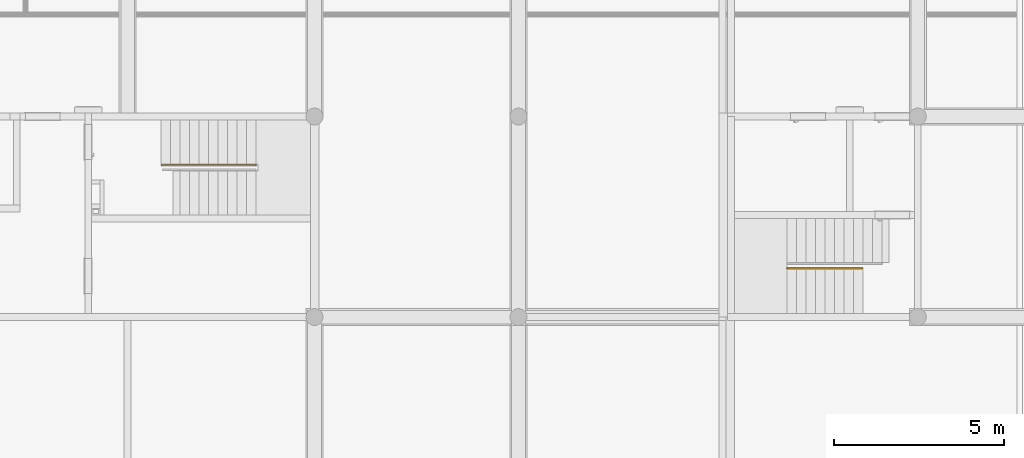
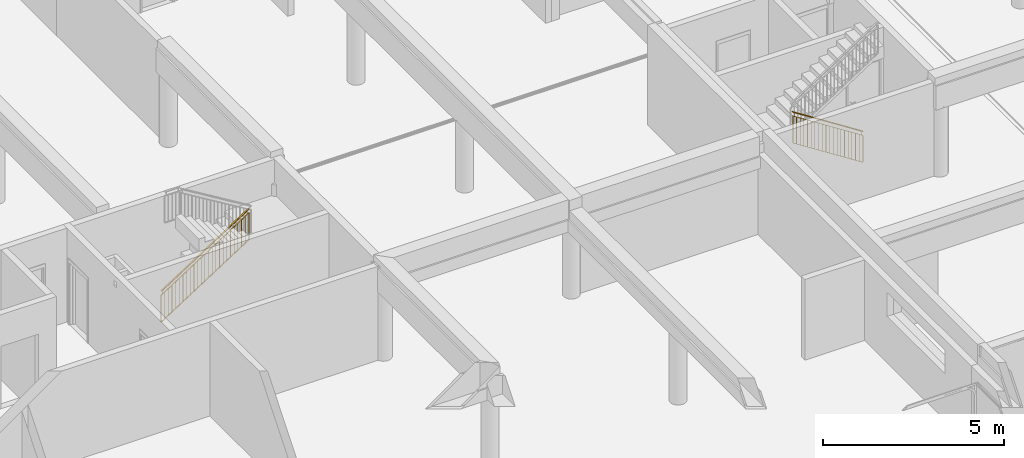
# One storey, part 15 of 25: 2 railings.
"""IFC2X3 building model written with IfcOpenShell, lengths in millimetres."""

from ifc_helpers import new_model, entity, si_unit, converted_unit, derived_unit, money_unit, direction, frame, origin_with_axes, place, context, subcontext, project, spatial, faceted_brep, material, material_list, type_object, element, save


model = new_model("IFC2X3")

# Units and contexts
model_context = context("Model", 3, precision=0.01, world=origin_with_axes(), true_north=direction((0.34421633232, 0.938890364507)))
body_context = subcontext(model_context, "Body", "Model", "MODEL_VIEW")
ifc_project = project(units=[si_unit("LENGTHUNIT", "METRE", prefix="MILLI"), si_unit("AREAUNIT", "SQUARE_METRE"), si_unit("VOLUMEUNIT", "CUBIC_METRE"), converted_unit("PLANEANGLEUNIT", "DEGREE", entity("IfcPlaneAngleMeasure", 0.0174532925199), si_unit("PLANEANGLEUNIT", "RADIAN"), dimensions=[0, 0, 0, 0, 0, 0, 0]), si_unit("SOLIDANGLEUNIT", "STERADIAN"), money_unit("USD"), converted_unit("TIMEUNIT", "Year", entity("IfcTimeMeasure", 31556926.0), si_unit("TIMEUNIT", "SECOND"), dimensions=[0, 0, 1, 0, 0, 0, 0]), si_unit("MASSUNIT", "GRAM", prefix="KILO"), si_unit("THERMODYNAMICTEMPERATUREUNIT", "DEGREE_CELSIUS"), si_unit("LUMINOUSINTENSITYUNIT", "LUMEN"), si_unit("ENERGYUNIT", "JOULE", prefix="MEGA"), derived_unit("THERMALCONDUCTANCEUNIT", [(si_unit("POWERUNIT", "WATT"), 1), (si_unit("LENGTHUNIT", "METRE"), -1), (si_unit("THERMODYNAMICTEMPERATUREUNIT", "KELVIN"), -1)]), derived_unit("SPECIFICHEATCAPACITYUNIT", [(si_unit("ENERGYUNIT", "JOULE"), 1), (si_unit("MASSUNIT", "GRAM", prefix="KILO"), -1), (si_unit("THERMODYNAMICTEMPERATUREUNIT", "KELVIN"), -1)]), derived_unit("MASSDENSITYUNIT", [(si_unit("MASSUNIT", "GRAM", prefix="KILO"), 1), (si_unit("VOLUMEUNIT", "CUBIC_METRE"), -1)])], contexts=[model_context])

# Site, building, storey
site_placement = place(None, origin_with_axes())
site = spatial("IfcSite", under=ifc_project, at=site_placement, Name="USTRONIE MORSKIE", CompositionType="ELEMENT")
building_placement = place(site_placement, origin_with_axes())
building = spatial("IfcBuilding", under=site, at=building_placement, Name="Budynek", CompositionType="ELEMENT")
storey_placement = place(building_placement, frame((0.0, 0.0, -3600.0), z_axis=(0.0, 0.0, 1.0), x_axis=(1.0, 0.0, 0.0)))
storey = spatial("IfcBuildingStorey", under=building, at=storey_placement, Name="GARAZ", CompositionType="ELEMENT", Elevation=-3600.0)

# Railings
ifc_material_1 = material(Name="Stal konstrukcyjna")
ifc_material_2 = material(Name="Stal nierdzewna")
ifc_material_list_1 = material_list([ifc_material_1, ifc_material_1, ifc_material_2, ifc_material_2, ifc_material_2, ifc_material_1, ifc_material_1, ifc_material_1, ifc_material_1, ifc_material_1, ifc_material_1, ifc_material_1, ifc_material_1, ifc_material_1, ifc_material_1, ifc_material_1, ifc_material_1, ifc_material_1, ifc_material_1, ifc_material_1, ifc_material_1, ifc_material_1, ifc_material_1, ifc_material_1, ifc_material_1, ifc_material_1, ifc_material_1, ifc_material_1])
railing_type = type_object("IfcRailingType", Name="Typ balustrady", PredefinedType="NOTDEFINED")
railing_1_placement = place(storey_placement, frame((391797.920919, 731401.199036, 180.0), z_axis=(0.0, 0.0, 1.0), x_axis=(1.0, 0.0, 0.0)))
element("IfcRailing", 1, at=railing_1_placement, inside=storey, type_object=railing_type, material=ifc_material_list_1, Name="BL1", PredefinedType="NOTDEFINED", context=body_context, shape_type="Brep", body=[
    faceted_brep([(9.99999999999, -45.0, -143.571428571), (9.99999999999, -25.0, -143.571428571), (9.99999999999, -25.0, 756.428571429), (9.99999999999, -45.0, 756.428571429), (-9.99999999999, -45.0, -156.428571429), (-9.99999999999, -25.0, -156.428571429), (5.0, -40.0, -146.785714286), (5.0, -30.0, -146.785714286), (-5.0, -30.0, -153.214285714), (-5.0, -40.0, -153.214285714), (-9.99999999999, -25.0, 743.571428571), (-9.99999999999, -45.0, 743.571428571), (5.0, -40.0, 753.214285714), (-5.0, -40.0, 746.785714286), (-5.0, -30.0, 746.785714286), (5.0, -30.0, 753.214285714)], [[[0, 1, 2, 3]], [[0, 4, 5, 1], [6, 7, 8, 9]], [[1, 5, 10, 2]], [[3, 2, 10, 11], [12, 13, 14, 15]], [[4, 0, 3, 11]], [[5, 4, 11, 10]], [[7, 6, 12, 15]], [[8, 7, 15, 14]], [[9, 8, 14, 13]], [[6, 9, 13, 12]]]),
    faceted_brep([(2810.0, -45.0, 1656.42857143), (2810.0, -25.0, 1656.42857143), (2810.0, -25.0, 2556.42857143), (2810.0, -45.0, 2556.42857143), (2790.0, -45.0, 1643.57142857), (2790.0, -25.0, 1643.57142857), (2805.0, -40.0, 1653.21428571), (2805.0, -30.0, 1653.21428571), (2795.0, -30.0, 1646.78571429), (2795.0, -40.0, 1646.78571429), (2790.0, -25.0, 2543.57142857), (2790.0, -45.0, 2543.57142857), (2805.0, -40.0, 2553.21428571), (2795.0, -40.0, 2546.78571429), (2795.0, -30.0, 2546.78571429), (2805.0, -30.0, 2553.21428571)], [[[0, 1, 2, 3]], [[0, 4, 5, 1], [6, 7, 8, 9]], [[1, 5, 10, 2]], [[3, 2, 10, 11], [12, 13, 14, 15]], [[4, 0, 3, 11]], [[5, 4, 11, 10]], [[7, 6, 12, 15]], [[8, 7, 15, 14]], [[9, 8, 14, 13]], [[6, 9, 13, 12]]]),
    faceted_brep([(0.0, -59.9999999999, 900.0), (13.5189397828, -59.9999999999, 878.970538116), (2813.51893978, -59.9999999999, 2678.97053812), (2800.0, -59.9999999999, 2700.0), (0.0, -9.99999999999, 900.0), (13.5189397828, -9.99999999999, 878.970538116), (13.5189397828, -25.0, 878.970538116), (10.8151518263, -25.0, 883.176430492), (10.8151518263, -45.0, 883.176430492), (13.5189397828, -45.0, 878.970538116), (2813.51893978, -45.0, 2678.97053812), (2810.81515183, -45.0, 2683.17643049), (2810.81515183, -25.0, 2683.17643049), (2813.51893978, -25.0, 2678.97053812), (2813.51893978, -9.99999999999, 2678.97053812), (2800.0, -9.99999999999, 2700.0)], [[[0, 1, 2, 3]], [[0, 4, 5, 6, 7, 8, 9, 1]], [[1, 9, 10, 2]], [[3, 2, 10, 11, 12, 13, 14, 15]], [[4, 0, 3, 15]], [[5, 4, 15, 14]], [[6, 5, 14, 13]], [[7, 6, 13, 12]], [[8, 7, 12, 11]], [[9, 8, 11, 10]]]),
    faceted_brep([(13.5189397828, -45.0, 878.970538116), (13.5189397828, -25.0, 878.970538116), (2813.51893978, -25.0, 2678.97053812), (2813.51893978, -45.0, 2678.97053812), (10.8151518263, -45.0, 883.176430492), (10.8151518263, -25.0, 883.176430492), (2810.81515183, -25.0, 2683.17643049), (2810.81515183, -45.0, 2683.17643049)], [[[0, 1, 2, 3]], [[0, 4, 5, 1]], [[1, 5, 6, 2]], [[3, 2, 6, 7]], [[4, 0, 3, 7]], [[5, 4, 7, 6]]]),
    faceted_brep([(44.5589237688, -45.0, 777.317670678), (44.5589237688, -25.0, 777.317670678), (44.5589237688, -25.0, 898.924813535), (44.5589237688, -45.0, 898.924813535), (39.5589237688, -45.0, 777.317670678), (39.5589237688, -25.0, 777.317670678), (39.5589237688, -25.0, 897.317670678), (42.0589237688, -25.0, 898.924813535), (42.0589237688, -45.0, 898.924813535), (39.5589237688, -45.0, 897.317670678)], [[[0, 1, 2, 3]], [[0, 4, 5, 1]], [[1, 5, 6, 7, 2]], [[3, 2, 7, 8]], [[4, 0, 3, 8, 9]], [[5, 4, 9, 6]], [[7, 6, 9, 8]]]),
    faceted_brep([(2760.44107623, -45.0, 2523.24191155), (2760.44107623, -25.0, 2523.24191155), (2760.44107623, -25.0, 2644.8490544), (2760.44107623, -45.0, 2644.8490544), (2755.44107623, -45.0, 2523.24191155), (2755.44107623, -25.0, 2523.24191155), (2755.44107623, -25.0, 2643.24191155), (2757.94107623, -25.0, 2644.8490544), (2757.94107623, -45.0, 2644.8490544), (2755.44107623, -45.0, 2643.24191155)], [[[0, 1, 2, 3]], [[0, 4, 5, 1]], [[1, 5, 6, 7, 2]], [[3, 2, 7, 8]], [[4, 0, 3, 8, 9]], [[5, 4, 9, 6]], [[7, 6, 9, 8]]]),
    faceted_brep([(0.0, -54.9999999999, 750.0), (2.70378795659, -54.9999999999, 745.794107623), (2802.70378796, -54.9999999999, 2545.79410762), (2800.0, -54.9999999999, 2550.0), (0.0, -15.0, 750.0), (2.70378795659, -15.0, 745.794107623), (2802.70378796, -15.0, 2545.79410762), (2800.0, -15.0, 2550.0)], [[[0, 1, 2, 3]], [[0, 4, 5, 1]], [[1, 5, 6, 2]], [[3, 2, 6, 7]], [[4, 0, 3, 7]], [[5, 4, 7, 6]]]),
    faceted_brep([(-1.35189397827, -54.9999999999, -157.897053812), (1.35189397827, -54.9999999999, -162.102946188), (2801.35189398, -54.9999999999, 1637.89705381), (2798.64810602, -54.9999999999, 1642.10294619), (-1.35189397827, -15.0, -157.897053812), (1.35189397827, -15.0, -162.102946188), (2801.35189398, -15.0, 1637.89705381), (2798.64810602, -15.0, 1642.10294619)], [[[0, 1, 2, 3]], [[0, 4, 5, 1]], [[1, 5, 6, 2]], [[3, 2, 6, 7]], [[4, 0, 3, 7]], [[5, 4, 7, 6]]]),
    faceted_brep([(119.166666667, -47.5, -78.3928571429), (119.166666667, -22.4999999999, -78.3928571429), (119.166666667, -22.4999999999, 821.607142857), (119.166666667, -47.5, 821.607142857), (114.166666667, -47.5, -81.6071428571), (114.166666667, -22.4999999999, -81.6071428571), (114.166666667, -22.4999999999, 818.392857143), (114.166666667, -47.5, 818.392857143)], [[[0, 1, 2, 3]], [[0, 4, 5, 1]], [[1, 5, 6, 2]], [[3, 2, 6, 7]], [[4, 0, 3, 7]], [[5, 4, 7, 6]]]),
    faceted_brep([(235.833333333, -47.5, -3.39285714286), (235.833333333, -22.4999999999, -3.39285714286), (235.833333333, -22.4999999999, 896.607142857), (235.833333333, -47.5, 896.607142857), (230.833333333, -47.5, -6.60714285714), (230.833333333, -22.4999999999, -6.60714285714), (230.833333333, -22.4999999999, 893.392857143), (230.833333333, -47.5, 893.392857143)], [[[0, 1, 2, 3]], [[0, 4, 5, 1]], [[1, 5, 6, 2]], [[3, 2, 6, 7]], [[4, 0, 3, 7]], [[5, 4, 7, 6]]]),
    faceted_brep([(352.5, -47.5, 71.6071428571), (352.5, -22.4999999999, 71.6071428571), (352.5, -22.4999999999, 971.607142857), (352.5, -47.5, 971.607142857), (347.5, -47.5, 68.3928571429), (347.5, -22.4999999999, 68.3928571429), (347.5, -22.4999999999, 968.392857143), (347.5, -47.5, 968.392857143)], [[[0, 1, 2, 3]], [[0, 4, 5, 1]], [[1, 5, 6, 2]], [[3, 2, 6, 7]], [[4, 0, 3, 7]], [[5, 4, 7, 6]]]),
    faceted_brep([(469.166666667, -47.5, 146.607142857), (469.166666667, -22.4999999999, 146.607142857), (469.166666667, -22.4999999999, 1046.60714286), (469.166666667, -47.5, 1046.60714286), (464.166666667, -47.5, 143.392857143), (464.166666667, -22.4999999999, 143.392857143), (464.166666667, -22.4999999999, 1043.39285714), (464.166666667, -47.5, 1043.39285714)], [[[0, 1, 2, 3]], [[0, 4, 5, 1]], [[1, 5, 6, 2]], [[3, 2, 6, 7]], [[4, 0, 3, 7]], [[5, 4, 7, 6]]]),
    faceted_brep([(585.833333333, -47.5, 221.607142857), (585.833333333, -22.4999999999, 221.607142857), (585.833333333, -22.4999999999, 1121.60714286), (585.833333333, -47.5, 1121.60714286), (580.833333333, -47.5, 218.392857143), (580.833333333, -22.4999999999, 218.392857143), (580.833333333, -22.4999999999, 1118.39285714), (580.833333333, -47.5, 1118.39285714)], [[[0, 1, 2, 3]], [[0, 4, 5, 1]], [[1, 5, 6, 2]], [[3, 2, 6, 7]], [[4, 0, 3, 7]], [[5, 4, 7, 6]]]),
    faceted_brep([(702.5, -47.5, 296.607142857), (702.5, -22.4999999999, 296.607142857), (702.5, -22.4999999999, 1196.60714286), (702.5, -47.5, 1196.60714286), (697.5, -47.5, 293.392857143), (697.5, -22.4999999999, 293.392857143), (697.5, -22.4999999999, 1193.39285714), (697.5, -47.5, 1193.39285714)], [[[0, 1, 2, 3]], [[0, 4, 5, 1]], [[1, 5, 6, 2]], [[3, 2, 6, 7]], [[4, 0, 3, 7]], [[5, 4, 7, 6]]]),
    faceted_brep([(819.166666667, -47.5, 371.607142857), (819.166666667, -22.4999999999, 371.607142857), (819.166666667, -22.4999999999, 1271.60714286), (819.166666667, -47.5, 1271.60714286), (814.166666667, -47.5, 368.392857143), (814.166666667, -22.4999999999, 368.392857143), (814.166666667, -22.4999999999, 1268.39285714), (814.166666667, -47.5, 1268.39285714)], [[[0, 1, 2, 3]], [[0, 4, 5, 1]], [[1, 5, 6, 2]], [[3, 2, 6, 7]], [[4, 0, 3, 7]], [[5, 4, 7, 6]]]),
    faceted_brep([(935.833333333, -47.5, 446.607142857), (935.833333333, -22.4999999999, 446.607142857), (935.833333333, -22.4999999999, 1346.60714286), (935.833333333, -47.5, 1346.60714286), (930.833333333, -47.5, 443.392857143), (930.833333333, -22.4999999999, 443.392857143), (930.833333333, -22.4999999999, 1343.39285714), (930.833333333, -47.5, 1343.39285714)], [[[0, 1, 2, 3]], [[0, 4, 5, 1]], [[1, 5, 6, 2]], [[3, 2, 6, 7]], [[4, 0, 3, 7]], [[5, 4, 7, 6]]]),
    faceted_brep([(1052.5, -47.5, 521.607142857), (1052.5, -22.4999999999, 521.607142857), (1052.5, -22.4999999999, 1421.60714286), (1052.5, -47.5, 1421.60714286), (1047.5, -47.5, 518.392857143), (1047.5, -22.4999999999, 518.392857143), (1047.5, -22.4999999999, 1418.39285714), (1047.5, -47.5, 1418.39285714)], [[[0, 1, 2, 3]], [[0, 4, 5, 1]], [[1, 5, 6, 2]], [[3, 2, 6, 7]], [[4, 0, 3, 7]], [[5, 4, 7, 6]]]),
    faceted_brep([(1169.16666667, -47.5, 596.607142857), (1169.16666667, -22.4999999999, 596.607142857), (1169.16666667, -22.4999999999, 1496.60714286), (1169.16666667, -47.5, 1496.60714286), (1164.16666667, -47.5, 593.392857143), (1164.16666667, -22.4999999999, 593.392857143), (1164.16666667, -22.4999999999, 1493.39285714), (1164.16666667, -47.5, 1493.39285714)], [[[0, 1, 2, 3]], [[0, 4, 5, 1]], [[1, 5, 6, 2]], [[3, 2, 6, 7]], [[4, 0, 3, 7]], [[5, 4, 7, 6]]]),
    faceted_brep([(1285.83333333, -47.5, 671.607142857), (1285.83333333, -22.4999999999, 671.607142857), (1285.83333333, -22.4999999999, 1571.60714286), (1285.83333333, -47.5, 1571.60714286), (1280.83333333, -47.5, 668.392857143), (1280.83333333, -22.4999999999, 668.392857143), (1280.83333333, -22.4999999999, 1568.39285714), (1280.83333333, -47.5, 1568.39285714)], [[[0, 1, 2, 3]], [[0, 4, 5, 1]], [[1, 5, 6, 2]], [[3, 2, 6, 7]], [[4, 0, 3, 7]], [[5, 4, 7, 6]]]),
    faceted_brep([(1402.5, -47.5, 746.607142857), (1402.5, -22.4999999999, 746.607142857), (1402.5, -22.4999999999, 1646.60714286), (1402.5, -47.5, 1646.60714286), (1397.5, -47.5, 743.392857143), (1397.5, -22.4999999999, 743.392857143), (1397.5, -22.4999999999, 1643.39285714), (1397.5, -47.5, 1643.39285714)], [[[0, 1, 2, 3]], [[0, 4, 5, 1]], [[1, 5, 6, 2]], [[3, 2, 6, 7]], [[4, 0, 3, 7]], [[5, 4, 7, 6]]]),
    faceted_brep([(1519.16666667, -47.5, 821.607142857), (1519.16666667, -22.4999999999, 821.607142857), (1519.16666667, -22.4999999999, 1721.60714286), (1519.16666667, -47.5, 1721.60714286), (1514.16666667, -47.5, 818.392857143), (1514.16666667, -22.4999999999, 818.392857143), (1514.16666667, -22.4999999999, 1718.39285714), (1514.16666667, -47.5, 1718.39285714)], [[[0, 1, 2, 3]], [[0, 4, 5, 1]], [[1, 5, 6, 2]], [[3, 2, 6, 7]], [[4, 0, 3, 7]], [[5, 4, 7, 6]]]),
    faceted_brep([(1635.83333333, -47.5, 896.607142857), (1635.83333333, -22.4999999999, 896.607142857), (1635.83333333, -22.4999999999, 1796.60714286), (1635.83333333, -47.5, 1796.60714286), (1630.83333333, -47.5, 893.392857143), (1630.83333333, -22.4999999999, 893.392857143), (1630.83333333, -22.4999999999, 1793.39285714), (1630.83333333, -47.5, 1793.39285714)], [[[0, 1, 2, 3]], [[0, 4, 5, 1]], [[1, 5, 6, 2]], [[3, 2, 6, 7]], [[4, 0, 3, 7]], [[5, 4, 7, 6]]]),
    faceted_brep([(1752.5, -47.5, 971.607142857), (1752.5, -22.4999999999, 971.607142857), (1752.5, -22.4999999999, 1871.60714286), (1752.5, -47.5, 1871.60714286), (1747.5, -47.5, 968.392857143), (1747.5, -22.4999999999, 968.392857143), (1747.5, -22.4999999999, 1868.39285714), (1747.5, -47.5, 1868.39285714)], [[[0, 1, 2, 3]], [[0, 4, 5, 1]], [[1, 5, 6, 2]], [[3, 2, 6, 7]], [[4, 0, 3, 7]], [[5, 4, 7, 6]]]),
    faceted_brep([(1869.16666667, -47.5, 1046.60714286), (1869.16666667, -22.4999999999, 1046.60714286), (1869.16666667, -22.4999999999, 1946.60714286), (1869.16666667, -47.5, 1946.60714286), (1864.16666667, -47.5, 1043.39285714), (1864.16666667, -22.4999999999, 1043.39285714), (1864.16666667, -22.4999999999, 1943.39285714), (1864.16666667, -47.5, 1943.39285714)], [[[0, 1, 2, 3]], [[0, 4, 5, 1]], [[1, 5, 6, 2]], [[3, 2, 6, 7]], [[4, 0, 3, 7]], [[5, 4, 7, 6]]]),
    faceted_brep([(1985.83333333, -47.5, 1121.60714286), (1985.83333333, -22.4999999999, 1121.60714286), (1985.83333333, -22.4999999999, 2021.60714286), (1985.83333333, -47.5, 2021.60714286), (1980.83333333, -47.5, 1118.39285714), (1980.83333333, -22.4999999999, 1118.39285714), (1980.83333333, -22.4999999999, 2018.39285714), (1980.83333333, -47.5, 2018.39285714)], [[[0, 1, 2, 3]], [[0, 4, 5, 1]], [[1, 5, 6, 2]], [[3, 2, 6, 7]], [[4, 0, 3, 7]], [[5, 4, 7, 6]]]),
    faceted_brep([(2102.5, -47.5, 1196.60714286), (2102.5, -22.4999999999, 1196.60714286), (2102.5, -22.4999999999, 2096.60714286), (2102.5, -47.5, 2096.60714286), (2097.5, -47.5, 1193.39285714), (2097.5, -22.4999999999, 1193.39285714), (2097.5, -22.4999999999, 2093.39285714), (2097.5, -47.5, 2093.39285714)], [[[0, 1, 2, 3]], [[0, 4, 5, 1]], [[1, 5, 6, 2]], [[3, 2, 6, 7]], [[4, 0, 3, 7]], [[5, 4, 7, 6]]]),
    faceted_brep([(2219.16666667, -47.5, 1271.60714286), (2219.16666667, -22.4999999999, 1271.60714286), (2219.16666667, -22.4999999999, 2171.60714286), (2219.16666667, -47.5, 2171.60714286), (2214.16666667, -47.5, 1268.39285714), (2214.16666667, -22.4999999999, 1268.39285714), (2214.16666667, -22.4999999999, 2168.39285714), (2214.16666667, -47.5, 2168.39285714)], [[[0, 1, 2, 3]], [[0, 4, 5, 1]], [[1, 5, 6, 2]], [[3, 2, 6, 7]], [[4, 0, 3, 7]], [[5, 4, 7, 6]]]),
    faceted_brep([(2335.83333333, -47.5, 1346.60714286), (2335.83333333, -22.4999999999, 1346.60714286), (2335.83333333, -22.4999999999, 2246.60714286), (2335.83333333, -47.5, 2246.60714286), (2330.83333333, -47.5, 1343.39285714), (2330.83333333, -22.4999999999, 1343.39285714), (2330.83333333, -22.4999999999, 2243.39285714), (2330.83333333, -47.5, 2243.39285714)], [[[0, 1, 2, 3]], [[0, 4, 5, 1]], [[1, 5, 6, 2]], [[3, 2, 6, 7]], [[4, 0, 3, 7]], [[5, 4, 7, 6]]]),
    faceted_brep([(2452.5, -47.5, 1421.60714286), (2452.5, -22.4999999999, 1421.60714286), (2452.5, -22.4999999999, 2321.60714286), (2452.5, -47.5, 2321.60714286), (2447.5, -47.5, 1418.39285714), (2447.5, -22.4999999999, 1418.39285714), (2447.5, -22.4999999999, 2318.39285714), (2447.5, -47.5, 2318.39285714)], [[[0, 1, 2, 3]], [[0, 4, 5, 1]], [[1, 5, 6, 2]], [[3, 2, 6, 7]], [[4, 0, 3, 7]], [[5, 4, 7, 6]]]),
    faceted_brep([(2569.16666667, -47.5, 1496.60714286), (2569.16666667, -22.4999999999, 1496.60714286), (2569.16666667, -22.4999999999, 2396.60714286), (2569.16666667, -47.5, 2396.60714286), (2564.16666667, -47.5, 1493.39285714), (2564.16666667, -22.4999999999, 1493.39285714), (2564.16666667, -22.4999999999, 2393.39285714), (2564.16666667, -47.5, 2393.39285714)], [[[0, 1, 2, 3]], [[0, 4, 5, 1]], [[1, 5, 6, 2]], [[3, 2, 6, 7]], [[4, 0, 3, 7]], [[5, 4, 7, 6]]]),
    faceted_brep([(2685.83333333, -47.5, 1571.60714286), (2685.83333333, -22.4999999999, 1571.60714286), (2685.83333333, -22.4999999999, 2471.60714286), (2685.83333333, -47.5, 2471.60714286), (2680.83333333, -47.5, 1568.39285714), (2680.83333333, -22.4999999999, 1568.39285714), (2680.83333333, -22.4999999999, 2468.39285714), (2680.83333333, -47.5, 2468.39285714)], [[[0, 1, 2, 3]], [[0, 4, 5, 1]], [[1, 5, 6, 2]], [[3, 2, 6, 7]], [[4, 0, 3, 7]], [[5, 4, 7, 6]]]),
])
ifc_material_list_2 = material_list([ifc_material_1, ifc_material_1, ifc_material_2, ifc_material_2, ifc_material_2, ifc_material_1, ifc_material_1, ifc_material_1, ifc_material_1, ifc_material_1, ifc_material_1, ifc_material_1, ifc_material_1, ifc_material_1, ifc_material_1, ifc_material_1, ifc_material_1, ifc_material_1, ifc_material_1, ifc_material_1, ifc_material_1, ifc_material_1, ifc_material_1])
railing_2_placement = place(storey_placement, frame((412457.920919, 728301.199036, 180.0), z_axis=(0.0, 0.0, 1.0), x_axis=(1.0, 0.0, 0.0)))
element("IfcRailing", 2, at=railing_2_placement, inside=storey, type_object=railing_type, material=ifc_material_list_2, Name="BL1", PredefinedType="NOTDEFINED", context=body_context, shape_type="Brep", body=[
    faceted_brep([(-9.99999999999, 45.0, -143.571428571), (-9.99999999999, 25.0, -143.571428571), (-9.99999999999, 25.0, 756.428571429), (-9.99999999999, 45.0, 756.428571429), (9.99999999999, 45.0, -156.428571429), (9.99999999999, 25.0, -156.428571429), (-5.0, 40.0, -146.785714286), (-5.0, 30.0, -146.785714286), (5.0, 30.0, -153.214285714), (5.0, 40.0, -153.214285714), (9.99999999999, 25.0, 743.571428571), (9.99999999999, 45.0, 743.571428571), (-5.0, 40.0, 753.214285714), (5.0, 40.0, 746.785714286), (5.0, 30.0, 746.785714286), (-5.0, 30.0, 753.214285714)], [[[0, 1, 2, 3]], [[0, 4, 5, 1], [6, 7, 8, 9]], [[1, 5, 10, 2]], [[3, 2, 10, 11], [12, 13, 14, 15]], [[4, 0, 3, 11]], [[5, 4, 11, 10]], [[7, 6, 12, 15]], [[8, 7, 15, 14]], [[9, 8, 14, 13]], [[6, 9, 13, 12]]]),
    faceted_brep([(-2250.0, 45.0, 1296.42857143), (-2250.0, 25.0, 1296.42857143), (-2250.0, 25.0, 2196.42857143), (-2250.0, 45.0, 2196.42857143), (-2230.0, 45.0, 1283.57142857), (-2230.0, 25.0, 1283.57142857), (-2245.0, 40.0, 1293.21428571), (-2245.0, 30.0, 1293.21428571), (-2235.0, 30.0, 1286.78571429), (-2235.0, 40.0, 1286.78571429), (-2230.0, 25.0, 2183.57142857), (-2230.0, 45.0, 2183.57142857), (-2245.0, 40.0, 2193.21428571), (-2235.0, 40.0, 2186.78571429), (-2235.0, 30.0, 2186.78571429), (-2245.0, 30.0, 2193.21428571)], [[[0, 1, 2, 3]], [[0, 4, 5, 1], [6, 7, 8, 9]], [[1, 5, 10, 2]], [[3, 2, 10, 11], [12, 13, 14, 15]], [[4, 0, 3, 11]], [[5, 4, 11, 10]], [[7, 6, 12, 15]], [[8, 7, 15, 14]], [[9, 8, 14, 13]], [[6, 9, 13, 12]]]),
    faceted_brep([(0.0, 59.9999999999, 900.0), (-13.5189397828, 59.9999999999, 878.970538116), (-2253.51893978, 59.9999999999, 2318.97053812), (-2240.0, 59.9999999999, 2340.0), (0.0, 9.99999999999, 900.0), (-13.5189397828, 9.99999999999, 878.970538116), (-13.5189397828, 25.0, 878.970538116), (-10.8151518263, 25.0, 883.176430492), (-10.8151518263, 45.0, 883.176430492), (-13.5189397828, 45.0, 878.970538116), (-2253.51893978, 45.0, 2318.97053812), (-2250.81515183, 45.0, 2323.17643049), (-2250.81515183, 25.0, 2323.17643049), (-2253.51893978, 25.0, 2318.97053812), (-2253.51893978, 9.99999999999, 2318.97053812), (-2240.0, 9.99999999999, 2340.0)], [[[0, 1, 2, 3]], [[0, 4, 5, 6, 7, 8, 9, 1]], [[1, 9, 10, 2]], [[3, 2, 10, 11, 12, 13, 14, 15]], [[4, 0, 3, 15]], [[5, 4, 15, 14]], [[6, 5, 14, 13]], [[7, 6, 13, 12]], [[8, 7, 12, 11]], [[9, 8, 11, 10]]]),
    faceted_brep([(-13.5189397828, 45.0, 878.970538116), (-13.5189397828, 25.0, 878.970538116), (-2253.51893978, 25.0, 2318.97053812), (-2253.51893978, 45.0, 2318.97053812), (-10.8151518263, 45.0, 883.176430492), (-10.8151518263, 25.0, 883.176430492), (-2250.81515183, 25.0, 2323.17643049), (-2250.81515183, 45.0, 2323.17643049)], [[[0, 1, 2, 3]], [[0, 4, 5, 1]], [[1, 5, 6, 2]], [[3, 2, 6, 7]], [[4, 0, 3, 7]], [[5, 4, 7, 6]]]),
    faceted_brep([(-44.5589237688, 45.0, 777.317670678), (-44.5589237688, 25.0, 777.317670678), (-44.5589237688, 25.0, 898.924813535), (-44.5589237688, 45.0, 898.924813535), (-39.5589237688, 45.0, 777.317670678), (-39.5589237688, 25.0, 777.317670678), (-39.5589237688, 25.0, 897.317670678), (-42.0589237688, 25.0, 898.924813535), (-42.0589237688, 45.0, 898.924813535), (-39.5589237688, 45.0, 897.317670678)], [[[0, 1, 2, 3]], [[0, 4, 5, 1]], [[1, 5, 6, 7, 2]], [[3, 2, 7, 8]], [[4, 0, 3, 8, 9]], [[5, 4, 9, 6]], [[7, 6, 9, 8]]]),
    faceted_brep([(-2200.44107623, 45.0, 2163.24191155), (-2200.44107623, 25.0, 2163.24191155), (-2200.44107623, 25.0, 2284.8490544), (-2200.44107623, 45.0, 2284.8490544), (-2195.44107623, 45.0, 2163.24191155), (-2195.44107623, 25.0, 2163.24191155), (-2195.44107623, 25.0, 2283.24191155), (-2197.94107623, 25.0, 2284.8490544), (-2197.94107623, 45.0, 2284.8490544), (-2195.44107623, 45.0, 2283.24191155)], [[[0, 1, 2, 3]], [[0, 4, 5, 1]], [[1, 5, 6, 7, 2]], [[3, 2, 7, 8]], [[4, 0, 3, 8, 9]], [[5, 4, 9, 6]], [[7, 6, 9, 8]]]),
    faceted_brep([(0.0, 54.9999999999, 750.0), (-2.70378795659, 54.9999999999, 745.794107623), (-2242.70378796, 54.9999999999, 2185.79410762), (-2240.0, 54.9999999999, 2190.0), (0.0, 15.0, 750.0), (-2.70378795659, 15.0, 745.794107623), (-2242.70378796, 15.0, 2185.79410762), (-2240.0, 15.0, 2190.0)], [[[0, 1, 2, 3]], [[0, 4, 5, 1]], [[1, 5, 6, 2]], [[3, 2, 6, 7]], [[4, 0, 3, 7]], [[5, 4, 7, 6]]]),
    faceted_brep([(1.35189397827, 54.9999999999, -157.897053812), (-1.35189397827, 54.9999999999, -162.102946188), (-2241.35189398, 54.9999999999, 1277.89705381), (-2238.64810602, 54.9999999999, 1282.10294619), (1.35189397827, 15.0, -157.897053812), (-1.35189397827, 15.0, -162.102946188), (-2241.35189398, 15.0, 1277.89705381), (-2238.64810602, 15.0, 1282.10294619)], [[[0, 1, 2, 3]], [[0, 4, 5, 1]], [[1, 5, 6, 2]], [[3, 2, 6, 7]], [[4, 0, 3, 7]], [[5, 4, 7, 6]]]),
    faceted_brep([(-120.394736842, 47.5, -77.6033834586), (-120.394736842, 22.4999999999, -77.6033834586), (-120.394736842, 22.4999999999, 822.396616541), (-120.394736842, 47.5, 822.396616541), (-115.394736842, 47.5, -80.8176691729), (-115.394736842, 22.4999999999, -80.8176691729), (-115.394736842, 22.4999999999, 819.182330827), (-115.394736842, 47.5, 819.182330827)], [[[0, 1, 2, 3]], [[0, 4, 5, 1]], [[1, 5, 6, 2]], [[3, 2, 6, 7]], [[4, 0, 3, 7]], [[5, 4, 7, 6]]]),
    faceted_brep([(-238.289473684, 47.5, -1.81390977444), (-238.289473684, 22.4999999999, -1.81390977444), (-238.289473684, 22.4999999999, 898.186090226), (-238.289473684, 47.5, 898.186090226), (-233.289473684, 47.5, -5.02819548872), (-233.289473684, 22.4999999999, -5.02819548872), (-233.289473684, 22.4999999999, 894.971804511), (-233.289473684, 47.5, 894.971804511)], [[[0, 1, 2, 3]], [[0, 4, 5, 1]], [[1, 5, 6, 2]], [[3, 2, 6, 7]], [[4, 0, 3, 7]], [[5, 4, 7, 6]]]),
    faceted_brep([(-356.184210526, 47.5, 73.9755639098), (-356.184210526, 22.4999999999, 73.9755639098), (-356.184210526, 22.4999999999, 973.97556391), (-356.184210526, 47.5, 973.97556391), (-351.184210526, 47.5, 70.7612781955), (-351.184210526, 22.4999999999, 70.7612781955), (-351.184210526, 22.4999999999, 970.761278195), (-351.184210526, 47.5, 970.761278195)], [[[0, 1, 2, 3]], [[0, 4, 5, 1]], [[1, 5, 6, 2]], [[3, 2, 6, 7]], [[4, 0, 3, 7]], [[5, 4, 7, 6]]]),
    faceted_brep([(-474.078947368, 47.5, 149.765037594), (-474.078947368, 22.4999999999, 149.765037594), (-474.078947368, 22.4999999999, 1049.76503759), (-474.078947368, 47.5, 1049.76503759), (-469.078947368, 47.5, 146.55075188), (-469.078947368, 22.4999999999, 146.55075188), (-469.078947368, 22.4999999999, 1046.55075188), (-469.078947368, 47.5, 1046.55075188)], [[[0, 1, 2, 3]], [[0, 4, 5, 1]], [[1, 5, 6, 2]], [[3, 2, 6, 7]], [[4, 0, 3, 7]], [[5, 4, 7, 6]]]),
    faceted_brep([(-591.973684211, 47.5, 225.554511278), (-591.973684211, 22.4999999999, 225.554511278), (-591.973684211, 22.4999999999, 1125.55451128), (-591.973684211, 47.5, 1125.55451128), (-586.973684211, 47.5, 222.340225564), (-586.973684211, 22.4999999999, 222.340225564), (-586.973684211, 22.4999999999, 1122.34022556), (-586.973684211, 47.5, 1122.34022556)], [[[0, 1, 2, 3]], [[0, 4, 5, 1]], [[1, 5, 6, 2]], [[3, 2, 6, 7]], [[4, 0, 3, 7]], [[5, 4, 7, 6]]]),
    faceted_brep([(-709.868421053, 47.5, 301.343984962), (-709.868421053, 22.4999999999, 301.343984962), (-709.868421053, 22.4999999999, 1201.34398496), (-709.868421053, 47.5, 1201.34398496), (-704.868421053, 47.5, 298.129699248), (-704.868421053, 22.4999999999, 298.129699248), (-704.868421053, 22.4999999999, 1198.12969925), (-704.868421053, 47.5, 1198.12969925)], [[[0, 1, 2, 3]], [[0, 4, 5, 1]], [[1, 5, 6, 2]], [[3, 2, 6, 7]], [[4, 0, 3, 7]], [[5, 4, 7, 6]]]),
    faceted_brep([(-827.763157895, 47.5, 377.133458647), (-827.763157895, 22.4999999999, 377.133458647), (-827.763157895, 22.4999999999, 1277.13345865), (-827.763157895, 47.5, 1277.13345865), (-822.763157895, 47.5, 373.919172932), (-822.763157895, 22.4999999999, 373.919172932), (-822.763157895, 22.4999999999, 1273.91917293), (-822.763157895, 47.5, 1273.91917293)], [[[0, 1, 2, 3]], [[0, 4, 5, 1]], [[1, 5, 6, 2]], [[3, 2, 6, 7]], [[4, 0, 3, 7]], [[5, 4, 7, 6]]]),
    faceted_brep([(-945.657894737, 47.5, 452.922932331), (-945.657894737, 22.4999999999, 452.922932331), (-945.657894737, 22.4999999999, 1352.92293233), (-945.657894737, 47.5, 1352.92293233), (-940.657894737, 47.5, 449.708646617), (-940.657894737, 22.4999999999, 449.708646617), (-940.657894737, 22.4999999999, 1349.70864662), (-940.657894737, 47.5, 1349.70864662)], [[[0, 1, 2, 3]], [[0, 4, 5, 1]], [[1, 5, 6, 2]], [[3, 2, 6, 7]], [[4, 0, 3, 7]], [[5, 4, 7, 6]]]),
    faceted_brep([(-1063.55263158, 47.5, 528.712406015), (-1063.55263158, 22.4999999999, 528.712406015), (-1063.55263158, 22.4999999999, 1428.71240602), (-1063.55263158, 47.5, 1428.71240602), (-1058.55263158, 47.5, 525.498120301), (-1058.55263158, 22.4999999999, 525.498120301), (-1058.55263158, 22.4999999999, 1425.4981203), (-1058.55263158, 47.5, 1425.4981203)], [[[0, 1, 2, 3]], [[0, 4, 5, 1]], [[1, 5, 6, 2]], [[3, 2, 6, 7]], [[4, 0, 3, 7]], [[5, 4, 7, 6]]]),
    faceted_brep([(-1181.44736842, 47.5, 604.501879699), (-1181.44736842, 22.4999999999, 604.501879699), (-1181.44736842, 22.4999999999, 1504.5018797), (-1181.44736842, 47.5, 1504.5018797), (-1176.44736842, 47.5, 601.287593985), (-1176.44736842, 22.4999999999, 601.287593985), (-1176.44736842, 22.4999999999, 1501.28759398), (-1176.44736842, 47.5, 1501.28759398)], [[[0, 1, 2, 3]], [[0, 4, 5, 1]], [[1, 5, 6, 2]], [[3, 2, 6, 7]], [[4, 0, 3, 7]], [[5, 4, 7, 6]]]),
    faceted_brep([(-1299.34210526, 47.5, 680.291353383), (-1299.34210526, 22.4999999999, 680.291353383), (-1299.34210526, 22.4999999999, 1580.29135338), (-1299.34210526, 47.5, 1580.29135338), (-1294.34210526, 47.5, 677.077067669), (-1294.34210526, 22.4999999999, 677.077067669), (-1294.34210526, 22.4999999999, 1577.07706767), (-1294.34210526, 47.5, 1577.07706767)], [[[0, 1, 2, 3]], [[0, 4, 5, 1]], [[1, 5, 6, 2]], [[3, 2, 6, 7]], [[4, 0, 3, 7]], [[5, 4, 7, 6]]]),
    faceted_brep([(-1417.23684211, 47.5, 756.080827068), (-1417.23684211, 22.4999999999, 756.080827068), (-1417.23684211, 22.4999999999, 1656.08082707), (-1417.23684211, 47.5, 1656.08082707), (-1412.23684211, 47.5, 752.866541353), (-1412.23684211, 22.4999999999, 752.866541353), (-1412.23684211, 22.4999999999, 1652.86654135), (-1412.23684211, 47.5, 1652.86654135)], [[[0, 1, 2, 3]], [[0, 4, 5, 1]], [[1, 5, 6, 2]], [[3, 2, 6, 7]], [[4, 0, 3, 7]], [[5, 4, 7, 6]]]),
    faceted_brep([(-1535.13157895, 47.5, 831.870300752), (-1535.13157895, 22.4999999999, 831.870300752), (-1535.13157895, 22.4999999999, 1731.87030075), (-1535.13157895, 47.5, 1731.87030075), (-1530.13157895, 47.5, 828.656015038), (-1530.13157895, 22.4999999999, 828.656015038), (-1530.13157895, 22.4999999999, 1728.65601504), (-1530.13157895, 47.5, 1728.65601504)], [[[0, 1, 2, 3]], [[0, 4, 5, 1]], [[1, 5, 6, 2]], [[3, 2, 6, 7]], [[4, 0, 3, 7]], [[5, 4, 7, 6]]]),
    faceted_brep([(-1653.02631579, 47.5, 907.659774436), (-1653.02631579, 22.4999999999, 907.659774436), (-1653.02631579, 22.4999999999, 1807.65977444), (-1653.02631579, 47.5, 1807.65977444), (-1648.02631579, 47.5, 904.445488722), (-1648.02631579, 22.4999999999, 904.445488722), (-1648.02631579, 22.4999999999, 1804.44548872), (-1648.02631579, 47.5, 1804.44548872)], [[[0, 1, 2, 3]], [[0, 4, 5, 1]], [[1, 5, 6, 2]], [[3, 2, 6, 7]], [[4, 0, 3, 7]], [[5, 4, 7, 6]]]),
    faceted_brep([(-1770.92105263, 47.5, 983.44924812), (-1770.92105263, 22.4999999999, 983.44924812), (-1770.92105263, 22.4999999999, 1883.44924812), (-1770.92105263, 47.5, 1883.44924812), (-1765.92105263, 47.5, 980.234962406), (-1765.92105263, 22.4999999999, 980.234962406), (-1765.92105263, 22.4999999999, 1880.23496241), (-1765.92105263, 47.5, 1880.23496241)], [[[0, 1, 2, 3]], [[0, 4, 5, 1]], [[1, 5, 6, 2]], [[3, 2, 6, 7]], [[4, 0, 3, 7]], [[5, 4, 7, 6]]]),
    faceted_brep([(-1888.81578947, 47.5, 1059.2387218), (-1888.81578947, 22.4999999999, 1059.2387218), (-1888.81578947, 22.4999999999, 1959.2387218), (-1888.81578947, 47.5, 1959.2387218), (-1883.81578947, 47.5, 1056.02443609), (-1883.81578947, 22.4999999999, 1056.02443609), (-1883.81578947, 22.4999999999, 1956.02443609), (-1883.81578947, 47.5, 1956.02443609)], [[[0, 1, 2, 3]], [[0, 4, 5, 1]], [[1, 5, 6, 2]], [[3, 2, 6, 7]], [[4, 0, 3, 7]], [[5, 4, 7, 6]]]),
    faceted_brep([(-2006.71052632, 47.5, 1135.02819549), (-2006.71052632, 22.4999999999, 1135.02819549), (-2006.71052632, 22.4999999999, 2035.02819549), (-2006.71052632, 47.5, 2035.02819549), (-2001.71052632, 47.5, 1131.81390977), (-2001.71052632, 22.4999999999, 1131.81390977), (-2001.71052632, 22.4999999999, 2031.81390977), (-2001.71052632, 47.5, 2031.81390977)], [[[0, 1, 2, 3]], [[0, 4, 5, 1]], [[1, 5, 6, 2]], [[3, 2, 6, 7]], [[4, 0, 3, 7]], [[5, 4, 7, 6]]]),
    faceted_brep([(-2124.60526316, 47.5, 1210.81766917), (-2124.60526316, 22.4999999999, 1210.81766917), (-2124.60526316, 22.4999999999, 2110.81766917), (-2124.60526316, 47.5, 2110.81766917), (-2119.60526316, 47.5, 1207.60338346), (-2119.60526316, 22.4999999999, 1207.60338346), (-2119.60526316, 22.4999999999, 2107.60338346), (-2119.60526316, 47.5, 2107.60338346)], [[[0, 1, 2, 3]], [[0, 4, 5, 1]], [[1, 5, 6, 2]], [[3, 2, 6, 7]], [[4, 0, 3, 7]], [[5, 4, 7, 6]]]),
])

save(model, "model.ifc")
